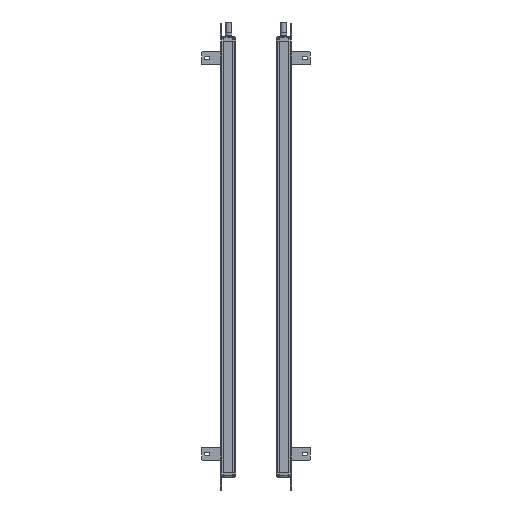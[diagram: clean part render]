
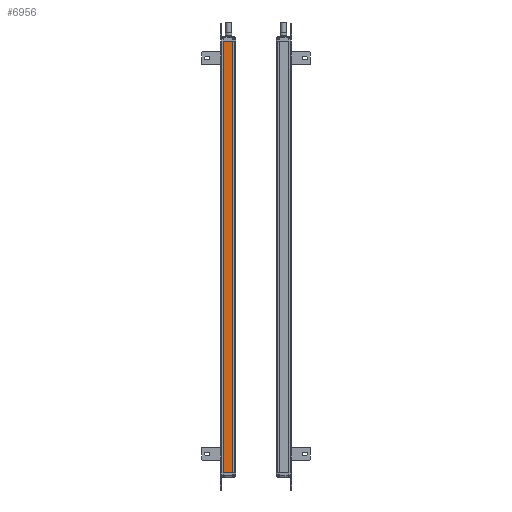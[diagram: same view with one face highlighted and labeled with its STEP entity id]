
A CAD part, left-side view. The second image highlights one B-rep face of the part: STEP entity #6956.
In plain terms, the highlighted planar face has unit normal (-1, 0, 0).
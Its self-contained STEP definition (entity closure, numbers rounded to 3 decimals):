
#953=FACE_OUTER_BOUND('',#9034,.T.);
#2188=LINE('',#33710,#4326);
#2290=LINE('',#34050,#4428);
#2291=LINE('',#34052,#4429);
#2292=LINE('',#34054,#4430);
#4326=VECTOR('',#26897,1.);
#4428=VECTOR('',#27185,1.);
#4429=VECTOR('',#27188,1.);
#4430=VECTOR('',#27189,1.);
#6178=PLANE('',#23723);
#6956=ADVANCED_FACE('',(#953),#6178,.T.);
#9034=EDGE_LOOP('',(#11681,#11682,#11683,#11684));
#11681=ORIENTED_EDGE('',*,*,#19828,.F.);
#11682=ORIENTED_EDGE('',*,*,#19829,.T.);
#11683=ORIENTED_EDGE('',*,*,#19830,.T.);
#11684=ORIENTED_EDGE('',*,*,#19658,.F.);
#17203=VERTEX_POINT('',#33709);
#17204=VERTEX_POINT('',#33711);
#17348=VERTEX_POINT('',#34049);
#17349=VERTEX_POINT('',#34053);
#19658=EDGE_CURVE('',#17203,#17204,#2188,.T.);
#19828=EDGE_CURVE('',#17348,#17203,#2290,.T.);
#19829=EDGE_CURVE('',#17348,#17349,#2291,.T.);
#19830=EDGE_CURVE('',#17349,#17204,#2292,.T.);
#23723=AXIS2_PLACEMENT_3D('',#34055,#27190,#27191);
#26897=DIRECTION('',(0.,-1.,0.));
#27185=DIRECTION('',(0.,0.,1.));
#27188=DIRECTION('',(0.,-1.,0.));
#27189=DIRECTION('',(0.,0.,1.));
#27190=DIRECTION('',(-1.,0.,0.));
#27191=DIRECTION('',(0.,1.,0.));
#33709=CARTESIAN_POINT('',(233.846,104.141,31.645));
#33710=CARTESIAN_POINT('',(233.846,81.141,31.645));
#33711=CARTESIAN_POINT('',(233.846,81.141,31.645));
#34049=CARTESIAN_POINT('',(233.846,104.141,-993.355));
#34050=CARTESIAN_POINT('',(233.846,104.141,-155.355));
#34052=CARTESIAN_POINT('',(233.846,81.141,-993.355));
#34053=CARTESIAN_POINT('',(233.846,81.141,-993.355));
#34054=CARTESIAN_POINT('',(233.846,81.141,-155.355));
#34055=CARTESIAN_POINT('',(233.846,81.141,-50.355));
